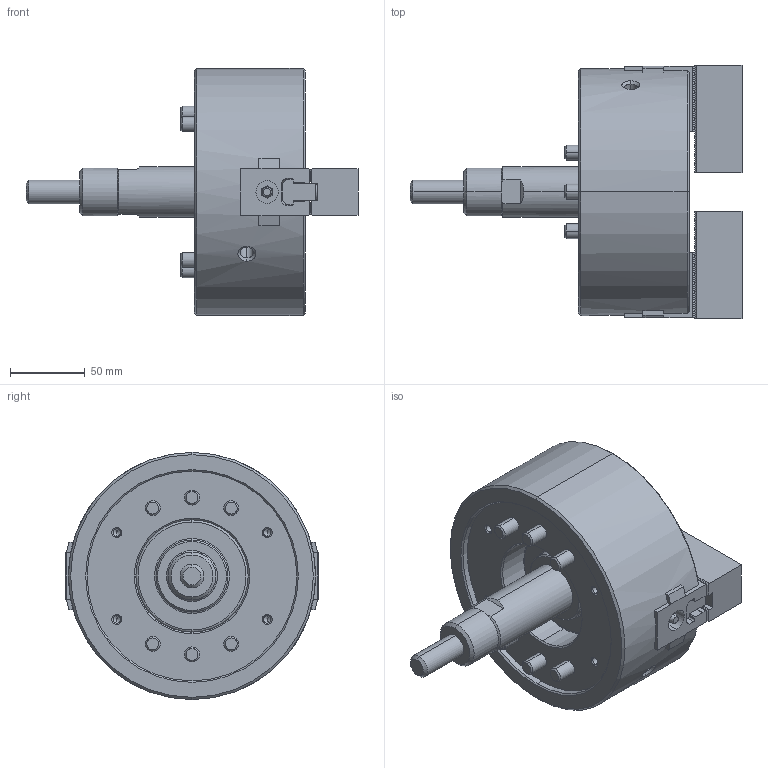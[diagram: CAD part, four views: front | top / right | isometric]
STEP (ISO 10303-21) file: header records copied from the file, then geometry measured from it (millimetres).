
FILE_DESCRIPTION (( 'STEP AP214' ), '1' );
FILE_NAME ('NLT06_UC.STEP', '2019-12-19T06:49:12', ( '' ), ( '' ), 'SwSTEP 2.0', 'SolidWorks 2017', '' );
FILE_SCHEMA (( 'AUTOMOTIVE_DESIGN' ));
Length unit declared in the file: millimetre
Products named in the file (5): 結合; 0030110030; 61P400822_俿僫僢僩; 61P314747_ソフトジョー; NLT06_UC
Assembly tree (9 placements, depth 2):
  NLT06_UC
    61P314747_ソフトジョー  x2
    61P400822_俿僫僢僩  x2
    0030110030  x4
    結合
Bounding box: 221.7 x 169.5 x 165 mm (x, y, z)
Volume: 1643704.8 mm3; surface area: 167535.2 mm2
Topology: 9 solids, 9 shells, 1678 faces, 4556 edges, 2919 vertices
Faces by surface type: plane 1307, cone 169, cylinder 166, torus 36
Entity records: 39918 total; most frequent: CARTESIAN_POINT 8135, ORIENTED_EDGE 6698, DIRECTION 6238, EDGE_CURVE 3349, LINE 2692, VECTOR 2692, VERTEX_POINT 2156, AXIS2_PLACEMENT_3D 1773
